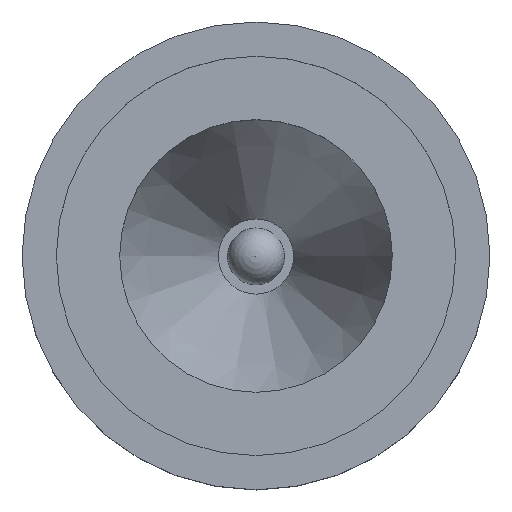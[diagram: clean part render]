
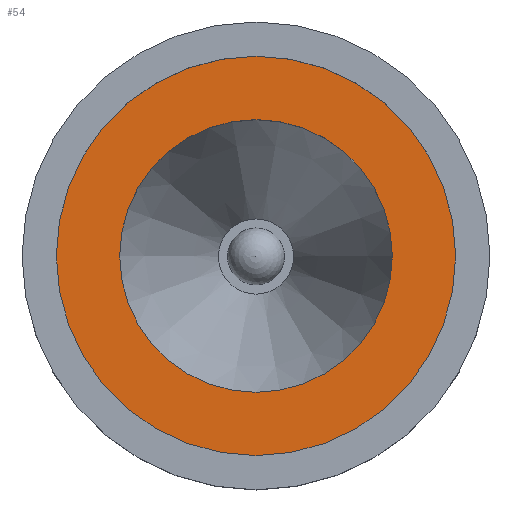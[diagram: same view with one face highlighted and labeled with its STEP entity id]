
A CAD part, top view. The second image highlights one B-rep face of the part: STEP entity #54.
In plain terms, the highlighted planar face has unit normal (0, 0, 1).
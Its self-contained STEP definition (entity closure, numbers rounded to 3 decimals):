
#54=ADVANCED_FACE('',(#77,#79),#81,.F.);
#77=FACE_BOUND('',#78,.T.);
#78=EDGE_LOOP('',(#201));
#79=FACE_BOUND('',#80,.T.);
#80=EDGE_LOOP('',(#202));
#81=PLANE('',#82);
#82=AXIS2_PLACEMENT_3D('',#83,#84,#85);
#83=CARTESIAN_POINT('',(-24.,-1.,185.));
#84=DIRECTION('',(0.,0.,-1.));
#85=DIRECTION('',(0.,1.,0.));
#201=ORIENTED_EDGE('',*,*,#229,.F.);
#202=ORIENTED_EDGE('',*,*,#230,.T.);
#229=EDGE_CURVE('',#245,#245,#246,.T.);
#230=EDGE_CURVE('',#247,#247,#248,.T.);
#245=VERTEX_POINT('',#279);
#246=CIRCLE('',#280,35.);
#247=VERTEX_POINT('',#284);
#248=CIRCLE('',#285,23.897);
#279=CARTESIAN_POINT('',(-33.,-1.,185.));
#280=AXIS2_PLACEMENT_3D('',#281,#282,#283);
#281=CARTESIAN_POINT('',(2.,-1.,185.));
#282=DIRECTION('',(0.,0.,-1.));
#283=DIRECTION('',(-1.,0.,0.));
#284=CARTESIAN_POINT('',(-21.897,-1.,185.));
#285=AXIS2_PLACEMENT_3D('',#286,#287,#288);
#286=CARTESIAN_POINT('',(2.,-1.,185.));
#287=DIRECTION('',(0.,0.,-1.));
#288=DIRECTION('',(-1.,0.,0.));
